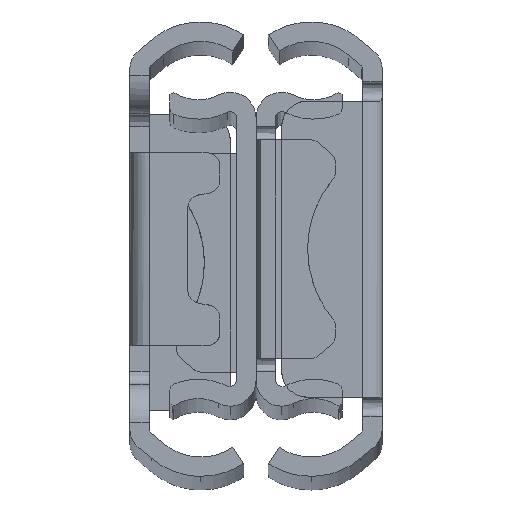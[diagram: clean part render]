
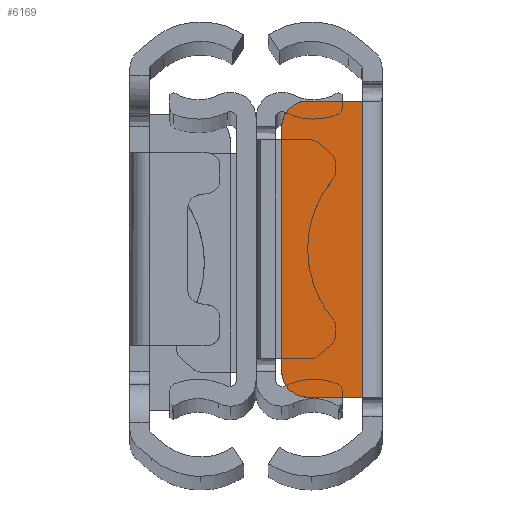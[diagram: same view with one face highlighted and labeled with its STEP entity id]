
A CAD part, top view. The second image highlights one B-rep face of the part: STEP entity #6169.
In plain terms, the highlighted planar face has unit normal (0, 0, 1) as drawn and (0, 0, -1) by its records, which use the part's own axes.
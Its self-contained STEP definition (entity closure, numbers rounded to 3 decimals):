
#18 = CARTESIAN_POINT ( 'NONE',  ( 211.8, -9.5, -101.6 ) ) ;
#202 = EDGE_CURVE ( 'NONE', #1633, #6031, #1006, .T. ) ;
#543 = CARTESIAN_POINT ( 'NONE',  ( 213.8, 11.5, -101.6 ) ) ;
#547 = CARTESIAN_POINT ( 'NONE',  ( 211.8, -9.5, -101.6 ) ) ;
#755 = VERTEX_POINT ( 'NONE', #547 ) ;
#757 = CARTESIAN_POINT ( 'NONE',  ( 212.571, -11.099, -101.6 ) ) ;
#885 = CARTESIAN_POINT ( 'NONE',  ( 211.8, -9.5, -101.6 ) ) ;
#891 = CARTESIAN_POINT ( 'NONE',  ( 213.538, 11.5, -101.6 ) ) ;
#974 = B_SPLINE_CURVE_WITH_KNOTS ( 'NONE', 3,
 ( #1820, #891, #3827, #6431, #4883, #4817, #3795, #4281, #3858, #5402 ),
 .UNSPECIFIED., .F., .F.,
 ( 4, 2, 2, 2, 4 ),
 ( 0., 0.25, 0.5, 0.75, 1. ),
 .UNSPECIFIED. ) ;
#1006 = B_SPLINE_CURVE_WITH_KNOTS ( 'NONE', 3,
 ( #6323, #5421, #1900, #2299 ),
 .UNSPECIFIED., .F., .F.,
 ( 4, 4 ),
 ( 0., 1. ),
 .UNSPECIFIED. ) ;
#1014 = ORIENTED_EDGE ( 'NONE', *, *, #1323, .F. ) ;
#1323 = EDGE_CURVE ( 'NONE', #6041, #3156, #974, .T. ) ;
#1394 = B_SPLINE_CURVE_WITH_KNOTS ( 'NONE', 3,
 ( #5233, #3190, #4802, #2726 ),
 .UNSPECIFIED., .F., .F.,
 ( 4, 4 ),
 ( 0., 1. ),
 .UNSPECIFIED. ) ;
#1452 = CARTESIAN_POINT ( 'NONE',  ( 213.8, -11.5, -101.6 ) ) ;
#1567 = EDGE_CURVE ( 'NONE', #6031, #2799, #1394, .T. ) ;
#1633 = VERTEX_POINT ( 'NONE', #6354 ) ;
#1758 = DIRECTION ( 'NONE',  ( 0., -1., 0. ) ) ;
#1791 = CARTESIAN_POINT ( 'NONE',  ( 215.233, 11.5, -101.6 ) ) ;
#1820 = CARTESIAN_POINT ( 'NONE',  ( 213.8, 11.5, -101.6 ) ) ;
#1857 = CARTESIAN_POINT ( 'NONE',  ( 218.1, 11.5, -101.6 ) ) ;
#1900 = CARTESIAN_POINT ( 'NONE',  ( 216.667, -11.5, -101.6 ) ) ;
#2008 = CARTESIAN_POINT ( 'NONE',  ( 211.8, 9.5, -101.6 ) ) ;
#2220 = FACE_OUTER_BOUND ( 'NONE', #4619, .T. ) ;
#2256 = PLANE ( 'NONE',  #4430 ) ;
#2299 = CARTESIAN_POINT ( 'NONE',  ( 218.1, -11.5, -101.6 ) ) ;
#2510 = CARTESIAN_POINT ( 'NONE',  ( 211.8, -3.167, -101.6 ) ) ;
#2726 = CARTESIAN_POINT ( 'NONE',  ( 218.1, 11.5, -101.6 ) ) ;
#2799 = VERTEX_POINT ( 'NONE', #3245 ) ;
#2869 = ORIENTED_EDGE ( 'NONE', *, *, #202, .F. ) ;
#2904 = CARTESIAN_POINT ( 'NONE',  ( 213.8, 11.5, -101.6 ) ) ;
#2994 = EDGE_CURVE ( 'NONE', #3156, #755, #4970, .T. ) ;
#3026 = CARTESIAN_POINT ( 'NONE',  ( 213.277, -11.448, -101.6 ) ) ;
#3156 = VERTEX_POINT ( 'NONE', #2008 ) ;
#3190 = CARTESIAN_POINT ( 'NONE',  ( 218.1, -3.833, -101.6 ) ) ;
#3245 = CARTESIAN_POINT ( 'NONE',  ( 218.1, 11.5, -101.6 ) ) ;
#3263 = B_SPLINE_CURVE_WITH_KNOTS ( 'NONE', 3,
 ( #1857, #5845, #1791, #2904 ),
 .UNSPECIFIED., .F., .F.,
 ( 4, 4 ),
 ( 0., 1. ),
 .UNSPECIFIED. ) ;
#3309 = EDGE_CURVE ( 'NONE', #2799, #6041, #3263, .T. ) ;
#3489 = CARTESIAN_POINT ( 'NONE',  ( 213.538, -11.5, -101.6 ) ) ;
#3757 = CARTESIAN_POINT ( 'NONE',  ( 212.052, -10.507, -101.6 ) ) ;
#3788 = CARTESIAN_POINT ( 'NONE',  ( 211.852, -10.023, -101.6 ) ) ;
#3795 = CARTESIAN_POINT ( 'NONE',  ( 212.052, 10.507, -101.6 ) ) ;
#3827 = CARTESIAN_POINT ( 'NONE',  ( 213.277, 11.448, -101.6 ) ) ;
#3858 = CARTESIAN_POINT ( 'NONE',  ( 211.8, 9.762, -101.6 ) ) ;
#4040 = ORIENTED_EDGE ( 'NONE', *, *, #1567, .F. ) ;
#4045 = ORIENTED_EDGE ( 'NONE', *, *, #2994, .F. ) ;
#4081 = CARTESIAN_POINT ( 'NONE',  ( 211.8, 9.5, -101.6 ) ) ;
#4090 = CARTESIAN_POINT ( 'NONE',  ( 218.1, -11.5, -101.6 ) ) ;
#4223 = CARTESIAN_POINT ( 'NONE',  ( 214.4, 13.74, -101.6 ) ) ;
#4244 = CARTESIAN_POINT ( 'NONE',  ( 211.8, -9.762, -101.6 ) ) ;
#4245 = B_SPLINE_CURVE_WITH_KNOTS ( 'NONE', 3,
 ( #885, #4244, #3788, #3757, #5769, #757, #5800, #3026, #3489, #1452 ),
 .UNSPECIFIED., .F., .F.,
 ( 4, 2, 2, 2, 4 ),
 ( 0., 0.25, 0.5, 0.75, 1. ),
 .UNSPECIFIED. ) ;
#4281 = CARTESIAN_POINT ( 'NONE',  ( 211.852, 10.023, -101.6 ) ) ;
#4430 = AXIS2_PLACEMENT_3D ( 'NONE', #4223, #4654, #1758 ) ;
#4619 = EDGE_LOOP ( 'NONE', ( #4045, #1014, #5437, #4040, #2869, #6493 ) ) ;
#4654 = DIRECTION ( 'NONE',  ( 0., 0., 1. ) ) ;
#4802 = CARTESIAN_POINT ( 'NONE',  ( 218.1, 3.833, -101.6 ) ) ;
#4817 = CARTESIAN_POINT ( 'NONE',  ( 212.201, 10.729, -101.6 ) ) ;
#4883 = CARTESIAN_POINT ( 'NONE',  ( 212.571, 11.099, -101.6 ) ) ;
#4970 = B_SPLINE_CURVE_WITH_KNOTS ( 'NONE', 3,
 ( #4081, #6014, #2510, #18 ),
 .UNSPECIFIED., .F., .F.,
 ( 4, 4 ),
 ( 0., 1. ),
 .UNSPECIFIED. ) ;
#5233 = CARTESIAN_POINT ( 'NONE',  ( 218.1, -11.5, -101.6 ) ) ;
#5402 = CARTESIAN_POINT ( 'NONE',  ( 211.8, 9.5, -101.6 ) ) ;
#5421 = CARTESIAN_POINT ( 'NONE',  ( 215.233, -11.5, -101.6 ) ) ;
#5437 = ORIENTED_EDGE ( 'NONE', *, *, #3309, .F. ) ;
#5665 = EDGE_CURVE ( 'NONE', #755, #1633, #4245, .T. ) ;
#5769 = CARTESIAN_POINT ( 'NONE',  ( 212.201, -10.729, -101.6 ) ) ;
#5800 = CARTESIAN_POINT ( 'NONE',  ( 212.793, -11.248, -101.6 ) ) ;
#5845 = CARTESIAN_POINT ( 'NONE',  ( 216.667, 11.5, -101.6 ) ) ;
#6014 = CARTESIAN_POINT ( 'NONE',  ( 211.8, 3.167, -101.6 ) ) ;
#6031 = VERTEX_POINT ( 'NONE', #4090 ) ;
#6041 = VERTEX_POINT ( 'NONE', #543 ) ;
#6169 = ADVANCED_FACE ( 'NONE', ( #2220 ), #2256, .F. ) ;
#6323 = CARTESIAN_POINT ( 'NONE',  ( 213.8, -11.5, -101.6 ) ) ;
#6354 = CARTESIAN_POINT ( 'NONE',  ( 213.8, -11.5, -101.6 ) ) ;
#6431 = CARTESIAN_POINT ( 'NONE',  ( 212.793, 11.248, -101.6 ) ) ;
#6493 = ORIENTED_EDGE ( 'NONE', *, *, #5665, .F. ) ;
